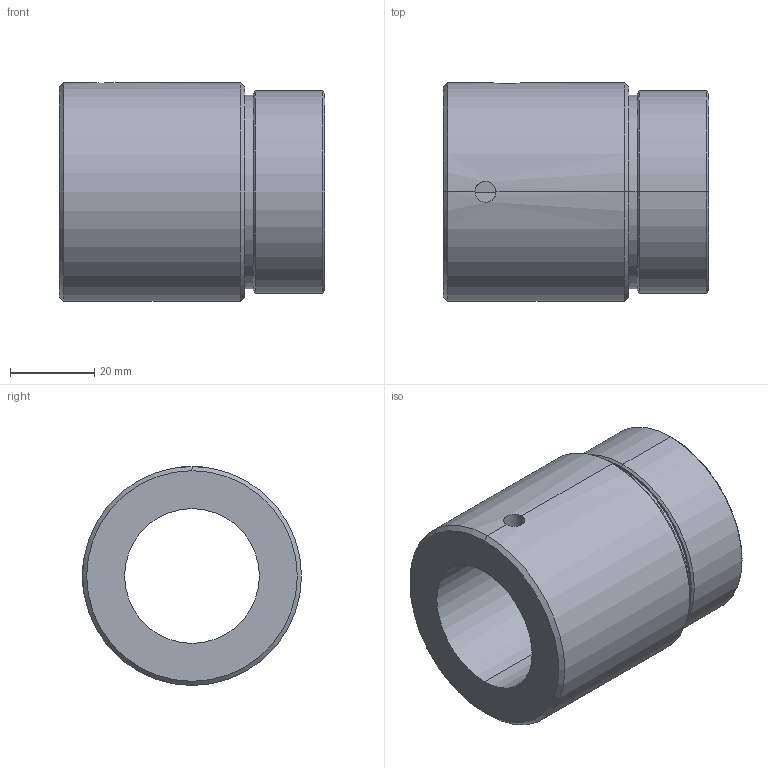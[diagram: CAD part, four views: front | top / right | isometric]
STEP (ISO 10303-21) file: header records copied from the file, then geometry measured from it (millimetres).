
FILE_DESCRIPTION (( 'STEP AP214' ), '1' );
FILE_NAME ('KGM-E-3205-RH.STEP', '2021-03-19T01:39:21', ( 'user' ), ( 'datathink' ), 'SwSTEP 2.0', 'SolidWorks 2013', '' );
FILE_SCHEMA (( 'AUTOMOTIVE_DESIGN' ));
Length unit declared in the file: millimetre
Products named in the file (1): KGM-E-3205-RH
Bounding box: 63 x 52 x 52 mm (x, y, z)
Volume: 76319.7 mm3; surface area: 19214.9 mm2
Topology: 1 solids, 1 shells, 25 faces, 54 edges, 32 vertices
Faces by surface type: cylinder 12, cone 8, plane 5
Entity records: 900 total; most frequent: CARTESIAN_POINT 304, DIRECTION 126, ORIENTED_EDGE 108, EDGE_CURVE 54, AXIS2_PLACEMENT_3D 52, VERTEX_POINT 32, EDGE_LOOP 30, CIRCLE 26
